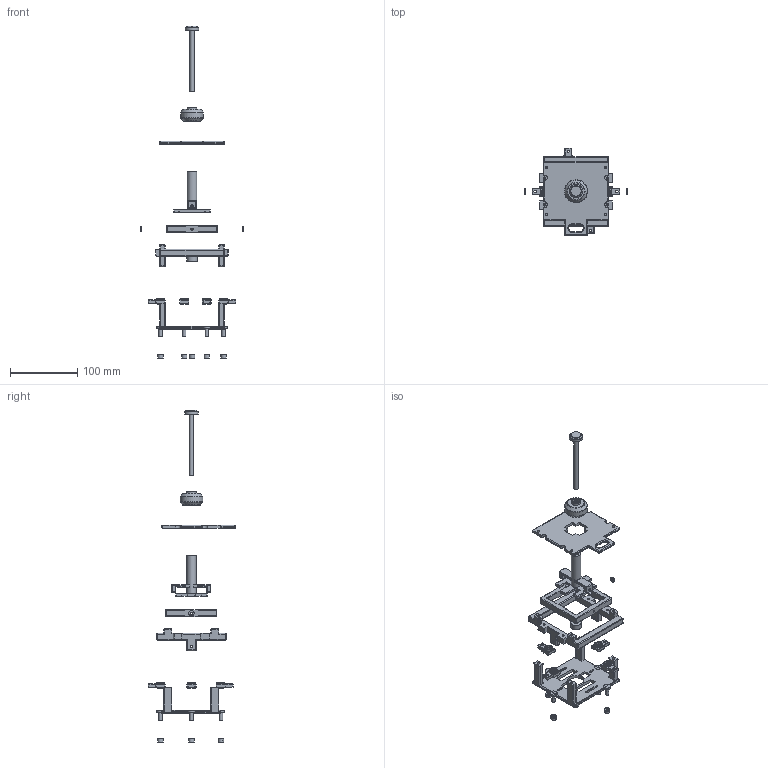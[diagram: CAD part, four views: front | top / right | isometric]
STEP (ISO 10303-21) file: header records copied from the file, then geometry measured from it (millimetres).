
FILE_DESCRIPTION(('Open CASCADE Model'),'2;1');
FILE_NAME('Open CASCADE Shape Model','2026-10-14T14:01:31',('Author'),( 'Open CASCADE'),'Open CASCADE STEP processor 7.8','Open CASCADE 7.8' ,'Unknown');
FILE_SCHEMA(('AUTOMOTIVE_DESIGN { 1 0 10303 214 1 1 1 1 }'));
Length unit declared in the file: millimetre
Products named in the file (14): Adaptive_Keyboard_V5_Head_Exploded; 05_FIVE_KEY_HEAD; 06_x_carriage_upper__01; 07_head_stator__01; 11_outer_gimbal__01; 12_joystick_cam_stem__01; 13_cross_gate_transport_loop__01; 14_hollow_grip__01; 15_center_pushrod_button__01; 17_center_return_stop_collar__01; 08_plunger_guide__01; 09_direction_plunger__01; 10_contact_foot__01; 18_outer_pivot_head_spacer__01
Assembly tree (24 placements, depth 3):
  Adaptive_Keyboard_V5_Head_Exploded
    05_FIVE_KEY_HEAD
      06_x_carriage_upper__01
      07_head_stator__01
      11_outer_gimbal__01
      12_joystick_cam_stem__01
      13_cross_gate_transport_loop__01
      14_hollow_grip__01
      15_center_pushrod_button__01
      17_center_return_stop_collar__01
      08_plunger_guide__01  x4
      09_direction_plunger__01  x4
      10_contact_foot__01  x5
      18_outer_pivot_head_spacer__01  x2
Bounding box: 155 x 130.21 x 495 mm (x, y, z)
Volume: 180462.9 mm3; surface area: 96393 mm2
Topology: 23 solids, 23 shells, 1117 faces, 2796 edges, 1670 vertices
Faces by surface type: plane 542, cylinder 453, sphere 101, bspline 7, torus 7, revolution 4, cone 3
Full cylindrical faces by diameter (mm): 2.7 x5, 3.4 x41, 5 x4, 5.6 x4, 6.2 x6, 6.4 x1, 6.6 x1, 6.8 x2, 8 x7, 8.4 x4, 8.8 x4, 10.5 x5, 12 x4, 14 x2, 14.5 x1, 16 x1, 20 x1, 24 x1, 34 x1
Entity records: 28390 total; most frequent: CARTESIAN_POINT 5796, DIRECTION 4759, ORIENTED_EDGE 4522, EDGE_CURVE 2261, AXIS2_PLACEMENT_3D 1612, LINE 1531, VECTOR 1531, VERTEX_POINT 1402
